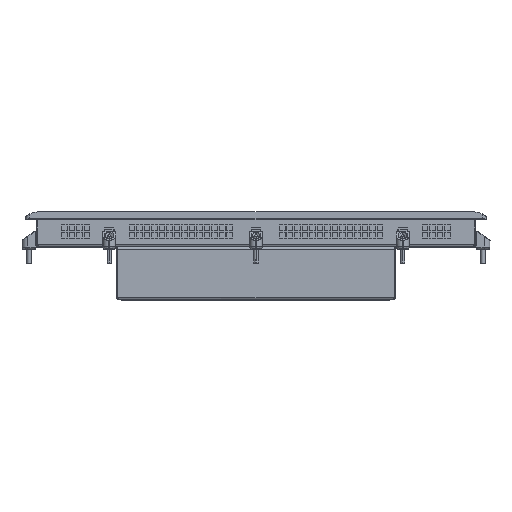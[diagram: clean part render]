
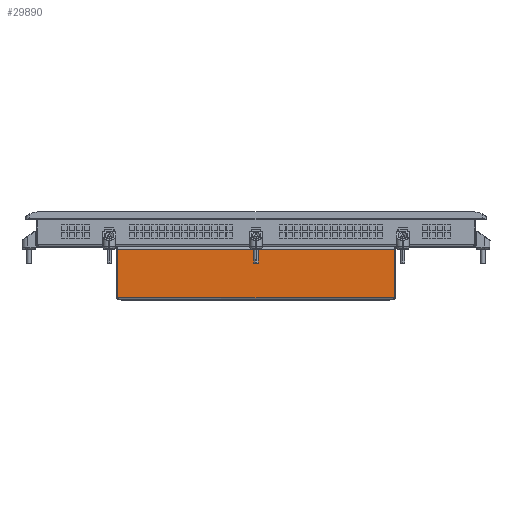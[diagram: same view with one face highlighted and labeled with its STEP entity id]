
A CAD part, top view. The second image highlights one B-rep face of the part: STEP entity #29890.
In plain terms, the highlighted planar face has unit normal (0, 0, 1) as drawn and (0, 1, 0) by its records, which use the part's own axes.
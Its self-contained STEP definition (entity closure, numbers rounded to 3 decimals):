
#11620 = CARTESIAN_POINT ( 'NONE',  ( 192.52, 127.571, 26.5 ) ) ;
#21069 = DIRECTION ( 'NONE',  ( 0., 0., -1. ) ) ;
#25035 = VECTOR ( 'NONE', #21069, 1000. ) ;
#29890 = ADVANCED_FACE ( 'NONE', ( #267978 ), #246255, .T. ) ;
#42858 = EDGE_CURVE ( 'NONE', #316414, #344898, #171408, .T. ) ;
#50363 = DIRECTION ( 'NONE',  ( 0., 0., 1. ) ) ;
#70666 = VECTOR ( 'NONE', #324257, 1000. ) ;
#110933 = CARTESIAN_POINT ( 'NONE',  ( -2.38, 127.571, -7.6 ) ) ;
#111687 = CARTESIAN_POINT ( 'NONE',  ( 193.32, 127.571, -9.2 ) ) ;
#145286 = EDGE_CURVE ( 'NONE', #204016, #316414, #187843, .T. ) ;
#151047 = ORIENTED_EDGE ( 'NONE', *, *, #145286, .T. ) ;
#164990 = ORIENTED_EDGE ( 'NONE', *, *, #266108, .T. ) ;
#171408 = LINE ( 'NONE', #183691, #25035 ) ;
#178539 = CARTESIAN_POINT ( 'NONE',  ( -2.38, 127.571, 26.5 ) ) ;
#183691 = CARTESIAN_POINT ( 'NONE',  ( 192.52, 127.571, -9.2 ) ) ;
#187843 = LINE ( 'NONE', #323089, #70666 ) ;
#190071 = LINE ( 'NONE', #247247, #252691 ) ;
#193117 = CARTESIAN_POINT ( 'NONE',  ( 192.52, 127.571, -7.6 ) ) ;
#195929 = DIRECTION ( 'NONE',  ( -1., 0., 0. ) ) ;
#202278 = EDGE_LOOP ( 'NONE', ( #216570, #151047, #307690, #164990 ) ) ;
#204016 = VERTEX_POINT ( 'NONE', #178539 ) ;
#208800 = AXIS2_PLACEMENT_3D ( 'NONE', #111687, #327052, #218270 ) ;
#216570 = ORIENTED_EDGE ( 'NONE', *, *, #319575, .T. ) ;
#218270 = DIRECTION ( 'NONE',  ( 0., 0., 1. ) ) ;
#244224 = VERTEX_POINT ( 'NONE', #110933 ) ;
#246255 = PLANE ( 'NONE',  #208800 ) ;
#247247 = CARTESIAN_POINT ( 'NONE',  ( 193.32, 127.571, -7.6 ) ) ;
#252691 = VECTOR ( 'NONE', #195929, 1000. ) ;
#266108 = EDGE_CURVE ( 'NONE', #344898, #244224, #190071, .T. ) ;
#267978 = FACE_OUTER_BOUND ( 'NONE', #202278, .T. ) ;
#292412 = VECTOR ( 'NONE', #50363, 1000. ) ;
#307690 = ORIENTED_EDGE ( 'NONE', *, *, #42858, .T. ) ;
#316414 = VERTEX_POINT ( 'NONE', #11620 ) ;
#319575 = EDGE_CURVE ( 'NONE', #244224, #204016, #321581, .T. ) ;
#321581 = LINE ( 'NONE', #344047, #292412 ) ;
#323089 = CARTESIAN_POINT ( 'NONE',  ( 193.32, 127.571, 26.5 ) ) ;
#324257 = DIRECTION ( 'NONE',  ( 1., 0., 0. ) ) ;
#327052 = DIRECTION ( 'NONE',  ( 0., 1., 0. ) ) ;
#344047 = CARTESIAN_POINT ( 'NONE',  ( -2.38, 127.571, -9.2 ) ) ;
#344898 = VERTEX_POINT ( 'NONE', #193117 ) ;
